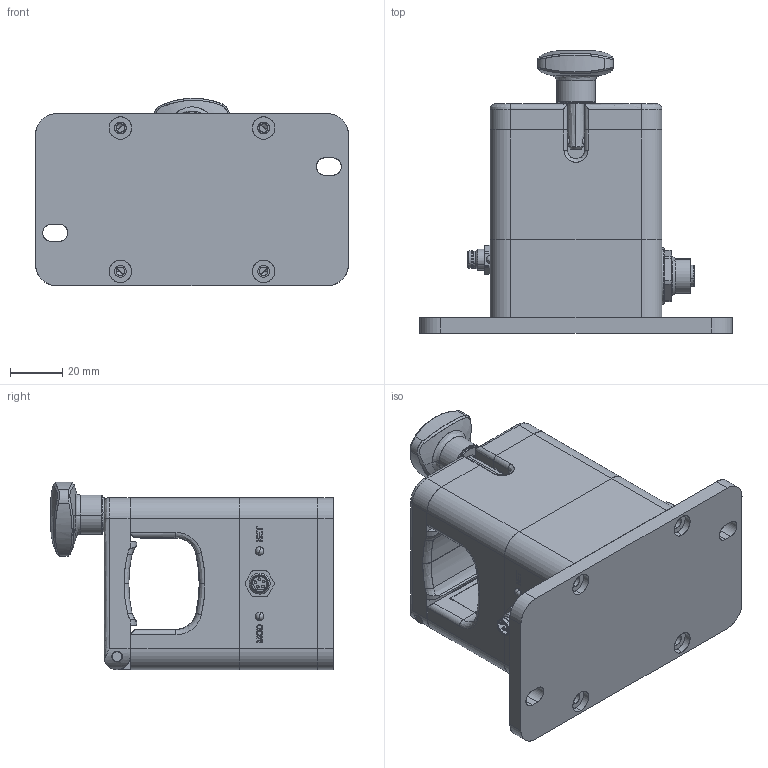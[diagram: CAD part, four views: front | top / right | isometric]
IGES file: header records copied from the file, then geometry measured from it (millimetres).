
Start section: SolidWorks IGES file using analytic representation for surfaces
Global section: file name: C:\Users\mhooglugt\Siemens\swcache\MFC117\CustomerFiles\BCU1375_BP.IGS; native system: SolidWorks 2023; preprocessor: SolidWorks 2023; author: MHooglugt; date: 251016.100948; units: inch
Bounding box: 120 x 108.5 x 71.89 mm (x, y, z)
Surface area: 85246.2 mm2 (no closed solid volume)
Topology: 0 solids, 0 shells, 1199 faces, 14594 edges, 14503 vertices
Faces by surface type: revolution 611, bspline 588
